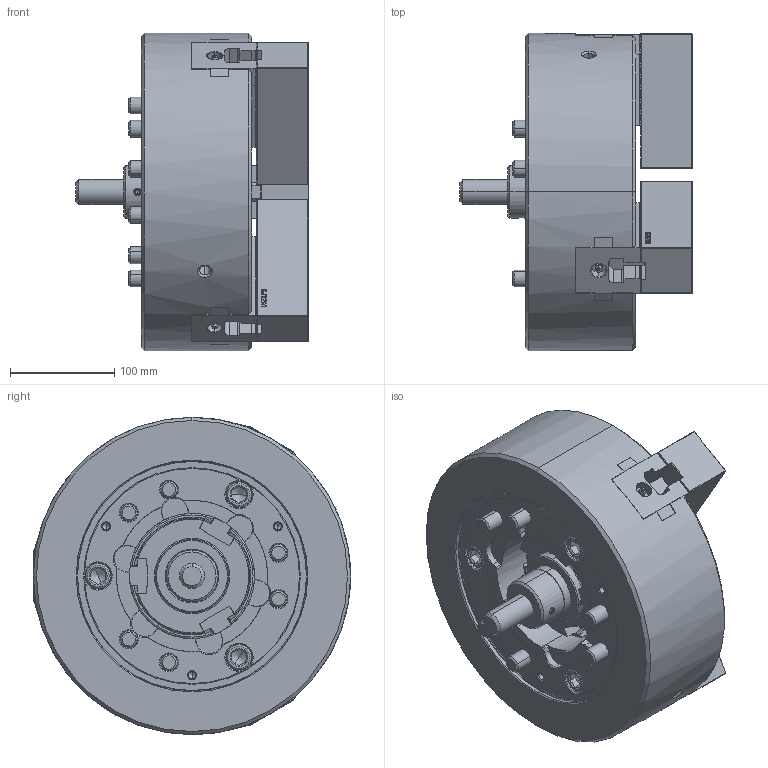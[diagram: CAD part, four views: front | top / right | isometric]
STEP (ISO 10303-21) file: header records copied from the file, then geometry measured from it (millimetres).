
FILE_DESCRIPTION (( 'STEP AP214' ), '1' );
FILE_NAME ('DT1_NL12_OUTSIDE_VIEW_HUL.STEP', '2026-03-23T05:40:49', ( '' ), ( '' ), 'SwSTEP 2.0', 'SolidWorks 2022', '' );
FILE_SCHEMA (( 'AUTOMOTIVE_DESIGN' ));
Length unit declared in the file: millimetre
Products named in the file (11): DT1_NL12_OUTSIDE_VIEW_HUL; Copy of 61P413921^DT1_NL12; DT1_NL12_M5x12^DT1_NL12; DT1_NL12_BASE^DT1_NL12; DT1_NL12_M16x100^DT1_NL12; DT1_NL12_SOFTJAW^DT1_NL12; DT1_NL12_M14x45^DT1_NL12; DT1_NL12_DRAWSCREW^DT1_NL12; DT1_NL12_DN^DT1_NL12; DT1_NL12_TNUT^DT1_NL12; DT1_NL12_COVER^DT1_NL12
Assembly tree (26 placements, depth 2):
  DT1_NL12_OUTSIDE_VIEW_HUL
    DT1_NL12_SOFTJAW^DT1_NL12  x3
    DT1_NL12_TNUT^DT1_NL12  x3
    DT1_NL12_COVER^DT1_NL12
    DT1_NL12_DRAWSCREW^DT1_NL12
    Copy of 61P413921^DT1_NL12
    DT1_NL12_M16x100^DT1_NL12  x6
    DT1_NL12_M14x45^DT1_NL12  x6
    DT1_NL12_M5x12^DT1_NL12  x3
    DT1_NL12_DN^DT1_NL12
    DT1_NL12_BASE^DT1_NL12
Bounding box: 222.72 x 304 x 304 mm (x, y, z)
Volume: 8047868.8 mm3; surface area: 673938.1 mm2
Topology: 26 solids, 26 shells, 5188 faces, 14722 edges, 9640 vertices
Faces by surface type: plane 3752, cylinder 701, cone 436, bspline 225, torus 68, sphere 6
Entity records: 122344 total; most frequent: CARTESIAN_POINT 32354, ORIENTED_EDGE 20152, DIRECTION 16443, EDGE_CURVE 10076, LINE 7537, VECTOR 7537, VERTEX_POINT 6616, AXIS2_PLACEMENT_3D 4453
